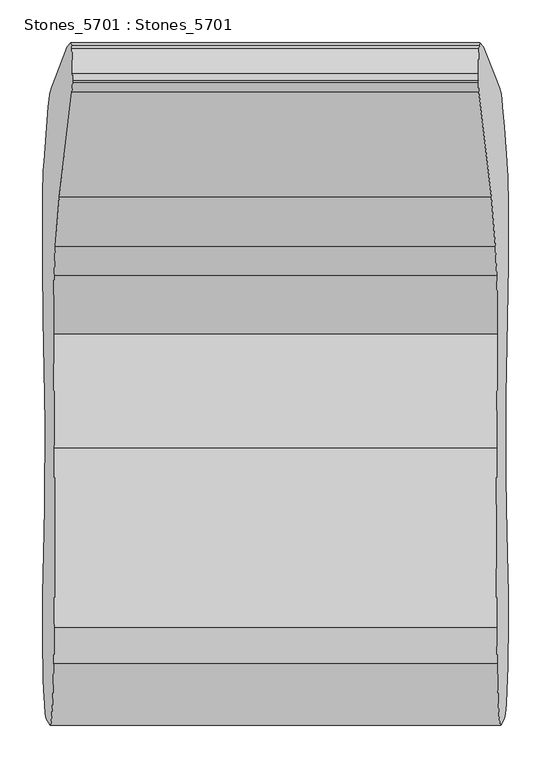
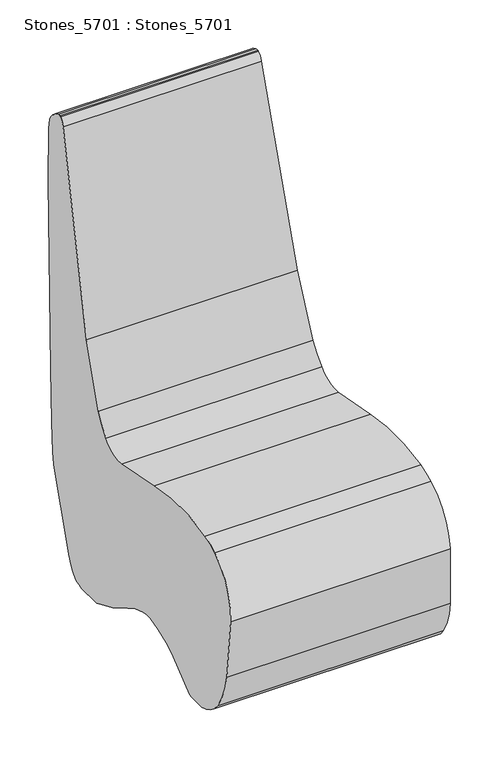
"""IFC4 building model written with IfcOpenShell, lengths in millimetres: furniture geometry, Stones_5701 : Stones_5701."""

from ifc_helpers import new_model, si_unit, frame, origin, origin_with_axes, place, context, project, spatial, polyline, ellipse_curve, outline, extrude, source, transform, mapped, element, save
from ifc_brep_helpers import plane_surface, cylinder_surface, revolved_surface, advanced_brep


def stones_5701_stones_5701_19645829(model_context):
    return source(origin(), model_context, "Body", "SolidModel", [
        advanced_brep(
        [(273.0352277, -183.7793268, 3.1584161), (273.0853994, -196.0719336, 1.5840123), (-273.0853994, -196.0719336, 1.5840123), (-273.0352277, -183.7793268, 3.1584161), (272.8570918, -170.6244643, 8.7483839), (-272.8570918, -170.6244643, 8.7483839), (272.6063417, -160.8509922, 16.6170124), (-272.6063417, -160.8509922, 16.6170124), (272.1441482, -149.9232694, 31.1208057), (-272.1441482, -149.9232694, 31.1208057), (271.4332654, -138.8206278, 53.4285612), (-271.4332654, -138.8206278, 53.4285612), (268.3365364, -98.8259809, 150.605015), (-268.3365364, -98.8259809, 150.605015), (266.4322429, -74.8779816, 210.3624172), (-266.4322429, -74.8779816, 210.3624172), (264.7378832, -60.4930009, 263.5320248), (-264.7378832, -60.4930009, 263.5320248), (262.4762753, -52.2771869, 334.5020831), (-262.4762753, -52.2771869, 334.5020831), (258.4308495, -41.5049884, 461.4489776), (-258.4308495, -41.5049884, 461.4489776), (244.0851218, -4.6987406, 911.6229926), (-244.0851218, -4.6987406, 911.6229926), (239.9456312, 0.0, 1041.5216751), (-239.9456312, 0.0, 1041.5216751), (239.1406906, -2.7827517, 1066.7809968), (-239.1406906, -2.7827517, 1066.7809968), (238.8683498, -6.4942874, 1075.327147), (-238.8683498, -6.4942874, 1075.327147), (238.1261835, -35.9789213, 1098.6165891), (-238.1261835, -35.9789213, 1098.6165891), (238.0820982, -43.9093181, 1100.0), (-238.0820982, -43.9093181, 1100.0), (238.1088769, -46.1207517, 1099.1596768), (-238.1088769, -46.1207517, 1099.1596768), (238.7072927, -57.7451465, 1080.3811773), (-238.7072927, -57.7451465, 1080.3811773), (253.4345701, -180.6099968, 618.2339933), (-253.4345701, -180.6099968, 618.2339933), (258.0485673, -238.3759965, 473.4451286), (-258.0485673, -238.3759965, 473.4451286), (259.5647437, -272.2299949, 425.8669743), (-259.5647437, -272.2299949, 425.8669743), (260.3174595, -340.8589931, 402.2464866), (-260.3174595, -340.8589931, 402.2464866), (259.4993201, -474.8229977, 427.9199922), (-259.4993201, -474.8229977, 427.9199922), (259.5331949, -685.0433339, 426.8569877), (-259.5331949, -685.0433339, 426.8569877), (273.0853994, -252.5100049, 1.5840123), (273.0589178, -259.5701271, 2.4150123), (-273.0589178, -259.5701271, 2.4150123), (-273.0853994, -252.5100049, 1.5840123), (260.0817591, -727.1202571, 409.6428499), (-260.0817591, -727.1202571, 409.6428499), (264.200544, -800.0, 280.393921), (-264.200544, -800.0, 280.393921), (268.8104165, -792.4598761, 135.7344895), (-268.8104165, -792.4598761, 135.7344895), (271.7244841, -758.8055184, 44.2900144), (-271.7244841, -758.8055184, 44.2900144), (273.0589178, -694.7849894, 2.4150123), (-273.0589178, -694.7849894, 2.4150123), (273.0589178, -651.8417312, 2.4150123), (-273.0589178, -651.8417312, 2.4150123), (272.9989847, -646.115845, 4.2957332), (-272.9989847, -646.115845, 4.2957332), (271.3523405, -573.5500021, 55.9680136), (-271.3523405, -573.5500021, 55.9680136), (270.130334, -475.4414965, 94.3150098), (-270.130334, -475.4414965, 94.3150098), (270.178066, -447.2963493, 92.8171637), (-270.178066, -447.2963493, 92.8171637), (271.0692104, -383.6283441, 64.8527358), (-271.0692104, -383.6283441, 64.8527358)],
        [
            (0, 1, ellipse_curve(frame((271.5310441, -196.0719336, 50.3602314), z_axis=(-0.9994926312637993, 0.0, -0.03185090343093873), x_axis=(0.03185090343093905, 0.0, -0.9994926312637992)), 48.8009792, 48.7762191)),
            (1, 2),
            (2, 3, ellipse_curve(frame((-271.5310441, -196.0719336, 50.3602314), z_axis=(0.9994926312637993, 0.0, -0.0318509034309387), x_axis=(0.03185090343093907, 0.0, 0.9994926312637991)), 48.8009792, 48.7762191)),
            (3, 0),
            (4, 0, ellipse_curve(frame((271.5310441, -196.0719336, 50.3602314), z_axis=(-0.9994926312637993, 0.0, -0.03185090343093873), x_axis=(0.03185090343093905, 0.0, -0.9994926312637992)), 48.8009792, 48.7762191)),
            (3, 5, ellipse_curve(frame((-271.5310441, -196.0719336, 50.3602314), z_axis=(0.9994926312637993, 0.0, -0.0318509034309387), x_axis=(0.03185090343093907, 0.0, 0.9994926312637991)), 48.8009792, 48.7762191)),
            (5, 4),
            (6, 4, ellipse_curve(frame((271.5310441, -196.0719336, 50.3602314), z_axis=(-0.9994926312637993, 0.0, -0.03185090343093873), x_axis=(0.03185090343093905, 0.0, -0.9994926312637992)), 48.8009792, 48.7762191)),
            (5, 7, ellipse_curve(frame((-271.5310441, -196.0719336, 50.3602314), z_axis=(0.9994926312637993, 0.0, -0.0318509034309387), x_axis=(0.03185090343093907, 0.0, 0.9994926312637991)), 48.8009792, 48.7762191)),
            (7, 6),
            (8, 6, ellipse_curve(frame((270.9099848, -216.4144817, 69.8492917), z_axis=(-0.9994926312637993, 0.0, -0.03185090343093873), x_axis=(0.03185090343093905, 0.0, -0.9994926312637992)), 76.9869453, 76.9478846)),
            (7, 9, ellipse_curve(frame((-270.9099848, -216.4144817, 69.8492917), z_axis=(0.9994926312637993, 0.0, -0.0318509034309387), x_axis=(0.03185090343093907, 0.0, 0.9994926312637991)), 76.9869453, 76.9478846)),
            (9, 8),
            (10, 8, ellipse_curve(frame((269.0964509, -314.119586, 126.7586281), z_axis=(-0.9994926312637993, 0.0, -0.03185090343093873), x_axis=(0.03185090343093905, 0.0, -0.9994926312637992)), 190.1149402, 190.0184818)),
            (9, 11, ellipse_curve(frame((-269.0964509, -314.119586, 126.7586281), z_axis=(0.9994926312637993, 0.0, -0.0318509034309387), x_axis=(0.03185090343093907, 0.0, 0.9994926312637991)), 190.1149402, 190.0184818)),
            (11, 10),
            (12, 10, ellipse_curve(frame((159.1748057, -8560.0243568, 3576.1387878), z_axis=(-0.9994926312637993, 0.0, -0.03185090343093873), x_axis=(0.03185090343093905, 0.0, -0.9994926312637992)), 9132.9501343, 9128.3163609)),
            (11, 13, ellipse_curve(frame((-159.1748057, -8560.0243568, 3576.1387878), z_axis=(0.9994926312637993, 0.0, -0.0318509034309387), x_axis=(0.03185090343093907, 0.0, 0.9994926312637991)), 9132.9501343, 9128.3163609)),
            (13, 12),
            (14, 12, ellipse_curve(frame((159.1748057, -8560.0243568, 3576.1387878), z_axis=(-0.9994926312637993, 0.0, -0.03185090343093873), x_axis=(0.03185090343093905, 0.0, -0.9994926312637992)), 9132.9501343, 9128.3163609)),
            (13, 15, ellipse_curve(frame((-159.1748057, -8560.0243568, 3576.1387878), z_axis=(0.9994926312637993, 0.0, -0.0318509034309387), x_axis=(0.03185090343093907, 0.0, 0.9994926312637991)), 9132.9501343, 9128.3163609)),
            (15, 14),
            (16, 14, ellipse_curve(frame((263.572651, -301.1005773, 300.0974239), z_axis=(-0.9994926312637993, 0.0, -0.03185090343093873), x_axis=(0.03185090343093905, 0.0, -0.9994926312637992)), 243.4937, 243.3701589)),
            (15, 17, ellipse_curve(frame((-263.572651, -301.1005773, 300.0974239), z_axis=(0.9994926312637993, 0.0, -0.0318509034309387), x_axis=(0.03185090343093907, 0.0, 0.9994926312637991)), 243.4937, 243.3701589)),
            (17, 16),
            (18, 16, ellipse_curve(frame((259.9279154, -1053.6982294, 414.4705205), z_axis=(-0.9994926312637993, 0.0, -0.03185090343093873), x_axis=(0.03185090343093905, 0.0, -0.9994926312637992)), 1005.1188726, 1004.6089068)),
            (17, 19, ellipse_curve(frame((-259.9279154, -1053.6982294, 414.4705205), z_axis=(0.9994926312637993, 0.0, -0.0318509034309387), x_axis=(0.03185090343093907, 0.0, 0.9994926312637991)), 1005.1188726, 1004.6089068)),
            (19, 18),
            (20, 18, ellipse_curve(frame((295.007222, 12731.3073034, -686.3305468), z_axis=(0.9994926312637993, 0.0, 0.03185090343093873), x_axis=(-0.03185090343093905, 0.0, 0.9994926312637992)), 12830.7889337, 12824.2789925)),
            (19, 21, ellipse_curve(frame((-295.007222, 12731.3073034, -686.3305468), z_axis=(-0.9994926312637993, 0.0, 0.0318509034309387), x_axis=(-0.03185090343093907, 0.0, -0.9994926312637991)), 12830.7889337, 12824.2789925)),
            (21, 20),
            (22, 20, ellipse_curve(frame((178.3342525, -28011.9878243, 2974.9085629), z_axis=(-0.9994926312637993, 0.0, -0.03185090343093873), x_axis=(0.03185090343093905, 0.0, -0.9994926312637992)), 28097.4427121, 28083.1869481)),
            (21, 23, ellipse_curve(frame((-178.3342525, -28011.9878243, 2974.9085629), z_axis=(0.9994926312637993, 0.0, -0.0318509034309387), x_axis=(0.03185090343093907, 0.0, 0.9994926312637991)), 28097.4427121, 28083.1869481)),
            (23, 22),
            (24, 22, ellipse_curve(frame((240.013441, -1739.074912, 1039.3937782), z_axis=(-0.9994926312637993, 0.0, -0.03185090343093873), x_axis=(0.03185090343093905, 0.0, -0.9994926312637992)), 1739.9590146, 1739.0762138)),
            (23, 25, ellipse_curve(frame((-240.013441, -1739.074912, 1039.3937782), z_axis=(0.9994926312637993, 0.0, -0.0318509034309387), x_axis=(0.03185090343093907, 0.0, 0.9994926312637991)), 1739.9590146, 1739.0762138)),
            (25, 24),
            (26, 24, ellipse_curve(frame((239.9502063, -117.3352914, 1041.3781061), z_axis=(-0.9994926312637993, 0.0, -0.03185090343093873), x_axis=(0.03185090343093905, 0.0, -0.9994926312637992)), 117.3949418, 117.3353793)),
            (25, 27, ellipse_curve(frame((-239.9502063, -117.3352914, 1041.3781061), z_axis=(0.9994926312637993, 0.0, -0.0318509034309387), x_axis=(0.03185090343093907, 0.0, 0.9994926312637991)), 117.3949418, 117.3353793)),
            (27, 26),
            (28, 26, ellipse_curve(frame((239.3095669, -26.6800148, 1061.4815982), z_axis=(-0.9994926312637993, 0.0, -0.03185090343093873), x_axis=(0.03185090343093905, 0.0, -0.9994926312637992)), 24.490228, 24.4778024)),
            (27, 29, ellipse_curve(frame((-239.3095669, -26.6800148, 1061.4815982), z_axis=(0.9994926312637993, 0.0, -0.0318509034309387), x_axis=(0.03185090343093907, 0.0, 0.9994926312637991)), 24.490228, 24.4778024)),
            (29, 28),
            (30, 28, ellipse_curve(frame((240.0103618, -58.7414549, 1039.4904049), z_axis=(-0.9994926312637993, 0.0, -0.03185090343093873), x_axis=(0.03185090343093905, 0.0, -0.9994926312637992)), 63.3886022, 63.3564408)),
            (29, 31, ellipse_curve(frame((-240.0103618, -58.7414549, 1039.4904049), z_axis=(0.9994926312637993, 0.0, -0.0318509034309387), x_axis=(0.03185090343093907, 0.0, 0.9994926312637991)), 63.3886022, 63.3564408)),
            (31, 30),
            (32, 30, ellipse_curve(frame((238.7446198, -43.4501769, 1079.2098374), z_axis=(-0.9994926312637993, 0.0, -0.03185090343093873), x_axis=(0.03185090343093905, 0.0, -0.9994926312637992)), 20.8057882, 20.795232)),
            (31, 33, ellipse_curve(frame((-238.7446198, -43.4501769, 1079.2098374), z_axis=(0.9994926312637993, 0.0, -0.0318509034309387), x_axis=(0.03185090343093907, 0.0, 0.9994926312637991)), 20.8057882, 20.795232)),
            (33, 32),
            (34, 32, ellipse_curve(frame((238.1947641, -43.8312383, 1096.4645043), z_axis=(-0.9994926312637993, 0.0, -0.03185090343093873), x_axis=(0.03185090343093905, 0.0, -0.9994926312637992)), 3.5381529, 3.5363578)),
            (33, 35, ellipse_curve(frame((-238.1947641, -43.8312383, 1096.4645043), z_axis=(0.9994926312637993, 0.0, -0.0318509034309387), x_axis=(0.03185090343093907, 0.0, 0.9994926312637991)), 3.5381529, 3.5363578)),
            (35, 34),
            (36, 34, ellipse_curve(frame((238.9817379, -22.8527253, 1071.7689886), z_axis=(-0.9994926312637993, 0.0, -0.03185090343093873), x_axis=(0.03185090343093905, 0.0, -0.9994926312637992)), 35.9577883, 35.9395444)),
            (35, 37, ellipse_curve(frame((-238.9817379, -22.8527253, 1071.7689886), z_axis=(0.9994926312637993, 0.0, -0.0318509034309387), x_axis=(0.03185090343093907, 0.0, 0.9994926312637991)), 35.9577883, 35.9395444)),
            (37, 36),
            (38, 36, ellipse_curve(frame((136.4784441, -13054.9176329, 4288.3586536), z_axis=(0.9994926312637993, 0.0, 0.03185090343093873), x_axis=(-0.03185090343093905, 0.0, 0.9994926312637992)), 13394.0139411, 13387.2182372)),
            (37, 39, ellipse_curve(frame((-136.4784441, -13054.9176329, 4288.3586536), z_axis=(-0.9994926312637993, 0.0, 0.0318509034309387), x_axis=(-0.03185090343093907, 0.0, -0.9994926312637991)), 13394.0139411, 13387.2182372)),
            (39, 38),
            (40, 38, ellipse_curve(frame((246.7410602, -917.4188266, 828.2787066), z_axis=(0.9994926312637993, 0.0, 0.03185090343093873), x_axis=(-0.03185090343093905, 0.0, 0.9994926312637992)), 766.5521142, 766.1631896)),
            (39, 41, ellipse_curve(frame((-246.7410602, -917.4188266, 828.2787066), z_axis=(-0.9994926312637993, 0.0, 0.0318509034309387), x_axis=(-0.03185090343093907, 0.0, -0.9994926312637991)), 766.5521142, 766.1631896)),
            (41, 40),
            (42, 40, ellipse_curve(frame((254.8913352, -427.9753296, 572.5201895), z_axis=(0.9994926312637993, 0.0, 0.03185090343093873), x_axis=(-0.03185090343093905, 0.0, 0.9994926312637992)), 214.033288, 213.9246942)),
            (41, 43, ellipse_curve(frame((-254.8913352, -427.9753296, 572.5201895), z_axis=(-0.9994926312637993, 0.0, 0.0318509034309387), x_axis=(-0.03185090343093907, 0.0, -0.9994926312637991)), 214.033288, 213.9246942)),
            (43, 42),
            (44, 42, ellipse_curve(frame((257.8609258, -329.0111836, 479.3333841), z_axis=(0.9994926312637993, 0.0, 0.03185090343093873), x_axis=(-0.03185090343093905, 0.0, 0.9994926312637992)), 78.031644, 77.9920532)),
            (43, 45, ellipse_curve(frame((-257.8609258, -329.0111836, 479.3333841), z_axis=(-0.9994926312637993, 0.0, 0.0318509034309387), x_axis=(-0.03185090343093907, 0.0, -0.9994926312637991)), 78.031644, 77.9920532)),
            (45, 44),
            (46, 44, ellipse_curve(frame((202.0070132, -59.6289559, 2232.0489469), z_axis=(0.9994926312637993, 0.0, 0.03185090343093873), x_axis=(-0.03185090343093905, 0.0, 0.9994926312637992)), 1852.2277945, 1851.288032)),
            (45, 47, ellipse_curve(frame((-202.0070132, -59.6289559, 2232.0489469), z_axis=(-0.9994926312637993, 0.0, 0.0318509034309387), x_axis=(-0.03185090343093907, 0.0, -0.9994926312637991)), 1852.2277945, 1851.288032)),
            (47, 46),
            (48, 46, ellipse_curve(frame((273.7414619, -577.6759311, -19.0034619), z_axis=(-0.9994926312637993, 0.0, -0.03185090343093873), x_axis=(0.03185090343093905, 0.0, -0.9994926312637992)), 458.838622, 458.6058217)),
            (47, 49, ellipse_curve(frame((-273.7414619, -577.6759311, -19.0034619), z_axis=(0.9994926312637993, 0.0, -0.0318509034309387), x_axis=(0.03185090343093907, 0.0, 0.9994926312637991)), 458.838622, 458.6058217)),
            (49, 48),
            (50, 51, ellipse_curve(frame((272.6064181, -254.3198196, 16.6146141), z_axis=(-0.9994926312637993, 0.0, -0.03185090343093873), x_axis=(0.03185090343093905, 0.0, -0.9994926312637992)), 15.1468534, 15.1391683)),
            (51, 52),
            (52, 53, ellipse_curve(frame((-272.6064181, -254.3198196, 16.6146141), z_axis=(0.9994926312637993, 0.0, -0.0318509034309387), x_axis=(0.03185090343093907, 0.0, 0.9994926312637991)), 15.1468534, 15.1391683)),
            (53, 50),
            (1, 50),
            (53, 2),
            (54, 48, ellipse_curve(frame((264.1834511, -649.9028114, 280.9303027), z_axis=(-0.9994926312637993, 0.0, -0.03185090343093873), x_axis=(0.03185090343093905, 0.0, -0.9994926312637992)), 150.1743408, 150.098147)),
            (49, 55, ellipse_curve(frame((-264.1834511, -649.9028114, 280.9303027), z_axis=(0.9994926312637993, 0.0, -0.0318509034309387), x_axis=(0.03185090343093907, 0.0, 0.9994926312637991)), 150.1743408, 150.098147)),
            (55, 54),
            (56, 54, ellipse_curve(frame((264.1834511, -649.9028114, 280.9303027), z_axis=(-0.9994926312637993, 0.0, -0.03185090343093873), x_axis=(0.03185090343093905, 0.0, -0.9994926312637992)), 150.1743408, 150.098147)),
            (55, 57, ellipse_curve(frame((-264.1834511, -649.9028114, 280.9303027), z_axis=(0.9994926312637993, 0.0, -0.0318509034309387), x_axis=(0.03185090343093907, 0.0, 0.9994926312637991)), 150.1743408, 150.098147)),
            (57, 56),
            (58, 56, ellipse_curve(frame((264.0304253, 693.854722, 285.7323042), z_axis=(-0.9994926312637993, 0.0, -0.03185090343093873), x_axis=(0.03185090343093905, 0.0, -0.9994926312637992)), 1494.6225853, 1493.8642605)),
            (57, 59, ellipse_curve(frame((-264.0304253, 693.854722, 285.7323042), z_axis=(0.9994926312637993, 0.0, -0.0318509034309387), x_axis=(0.03185090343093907, 0.0, 0.9994926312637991)), 1494.6225853, 1493.8642605)),
            (59, 58),
            (60, 58, ellipse_curve(frame((268.1853613, -598.1020679, 155.3489416), z_axis=(-0.9994926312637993, 0.0, -0.03185090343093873), x_axis=(0.03185090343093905, 0.0, -0.9994926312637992)), 195.4442014, 195.3450391)),
            (59, 61, ellipse_curve(frame((-268.1853613, -598.1020679, 155.3489416), z_axis=(0.9994926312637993, 0.0, -0.0318509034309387), x_axis=(0.03185090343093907, 0.0, 0.9994926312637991)), 195.4442014, 195.3450391)),
            (61, 60),
            (62, 60, ellipse_curve(frame((269.8876219, -675.3978165, 101.9314021), z_axis=(-0.9994926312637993, 0.0, -0.03185090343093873), x_axis=(0.03185090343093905, 0.0, -0.9994926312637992)), 101.438716, 101.3872492)),
            (61, 63, ellipse_curve(frame((-269.8876219, -675.3978165, 101.9314021), z_axis=(0.9994926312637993, 0.0, -0.0318509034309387), x_axis=(0.03185090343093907, 0.0, 0.9994926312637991)), 101.438716, 101.3872492)),
            (63, 62),
            (64, 62),
            (63, 65),
            (65, 64),
            (66, 64, ellipse_curve(frame((272.751189, -651.8417312, 12.0716509), z_axis=(-0.9994926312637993, 0.0, -0.03185090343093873), x_axis=(0.03185090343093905, 0.0, -0.9994926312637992)), 9.6615406, 9.6566386)),
            (65, 67, ellipse_curve(frame((-272.751189, -651.8417312, 12.0716509), z_axis=(0.9994926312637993, 0.0, -0.0318509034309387), x_axis=(0.03185090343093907, 0.0, 0.9994926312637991)), 9.6615406, 9.6566386)),
            (67, 66),
            (68, 66, ellipse_curve(frame((344.7448975, 1011.7373329, -2247.1164224), z_axis=(0.9994926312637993, 0.0, 0.03185090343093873), x_axis=(-0.03185090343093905, 0.0, 0.9994926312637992)), 2797.3688418, 2795.9495443)),
            (67, 69, ellipse_curve(frame((-344.7448975, 1011.7373329, -2247.1164224), z_axis=(-0.9994926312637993, 0.0, 0.0318509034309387), x_axis=(-0.03185090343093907, 0.0, -0.9994926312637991)), 2797.3688418, 2795.9495443)),
            (69, 68),
            (70, 68, ellipse_curve(frame((277.4102258, -442.6990095, -134.1305746), z_axis=(0.9994926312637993, 0.0, 0.03185090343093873), x_axis=(-0.03185090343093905, 0.0, 0.9994926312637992)), 230.8972521, 230.780102)),
            (69, 71, ellipse_curve(frame((-277.4102258, -442.6990095, -134.1305746), z_axis=(-0.9994926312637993, 0.0, 0.0318509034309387), x_axis=(-0.03185090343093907, 0.0, -0.9994926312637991)), 230.8972521, 230.780102)),
            (71, 70),
            (72, 70, ellipse_curve(frame((272.41846, -465.150281, 22.5128054), z_axis=(0.9994926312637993, 0.0, 0.03185090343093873), x_axis=(-0.03185090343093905, 0.0, 0.9994926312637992)), 72.5727825, 72.5359613)),
            (71, 73, ellipse_curve(frame((-272.41846, -465.150281, 22.5128054), z_axis=(-0.9994926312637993, 0.0, 0.0318509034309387), x_axis=(-0.03185090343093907, 0.0, -0.9994926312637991)), 72.5727825, 72.5359613)),
            (73, 72),
            (74, 72, ellipse_curve(frame((276.7099261, -499.349418, -112.1549212), z_axis=(0.9994926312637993, 0.0, 0.03185090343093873), x_axis=(-0.03185090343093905, 0.0, 0.9994926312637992)), 211.5856666, 211.4783146)),
            (73, 75, ellipse_curve(frame((-276.7099261, -499.349418, -112.1549212), z_axis=(-0.9994926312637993, 0.0, 0.0318509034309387), x_axis=(-0.03185090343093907, 0.0, -0.9994926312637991)), 211.5856666, 211.4783146)),
            (75, 74),
            (51, 74, ellipse_curve(frame((254.6047974, -45.8556843, 581.5118464), z_axis=(-0.9994926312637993, 0.0, -0.03185090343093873), x_axis=(0.03185090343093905, 0.0, -0.9994926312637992)), 617.5871948, 617.2738503)),
            (75, 52, ellipse_curve(frame((-254.6047974, -45.8556843, 581.5118464), z_axis=(0.9994926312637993, 0.0, -0.0318509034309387), x_axis=(0.03185090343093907, 0.0, 0.9994926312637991)), 617.5871948, 617.2738503)),
        ],
        [
            cylinder_surface(frame((-275.0, -196.0719336, 50.3602314), z_axis=(1.0, 0.0, 0.0), x_axis=(0.0, 1.0, 0.0)), 48.7762191),
            cylinder_surface(frame((-275.0, -216.4144817, 69.8492917), z_axis=(1.0, 0.0, 0.0), x_axis=(0.0, 1.0, 0.0)), 76.9478846),
            cylinder_surface(frame((-275.0, -314.119586, 126.7586281), z_axis=(1.0, 0.0, 0.0), x_axis=(0.0, 1.0, 0.0)), 190.0184818),
            cylinder_surface(frame((-275.0, -8560.0243568, 3576.1387878), z_axis=(1.0, 0.0, 0.0), x_axis=(0.0, 1.0, 0.0)), 9128.3163609),
            cylinder_surface(frame((-275.0, -301.1005773, 300.0974239), z_axis=(1.0, 0.0, 0.0), x_axis=(0.0, 1.0, 0.0)), 243.3701589),
            cylinder_surface(frame((-275.0, -1053.6982294, 414.4705205), z_axis=(1.0, 0.0, 0.0), x_axis=(0.0, 1.0, 0.0)), 1004.6089068),
            revolved_surface(polyline([(-703.6794412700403, 25555.5862959, -686.3305468), (703.6794412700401, 25555.5862959, -686.3305468)]), (-275.0, 12731.3073034, -686.3305468), (-1.0, 0.0, 0.0)),
            cylinder_surface(frame((-275.0, -28011.9878243, 2974.9085629), z_axis=(1.0, 0.0, 0.0), x_axis=(0.0, 1.0, 0.0)), 28083.1869481),
            cylinder_surface(frame((-275.0, -1739.074912, 1039.3937782), z_axis=(1.0, 0.0, 0.0), x_axis=(0.0, 1.0, 0.0)), 1739.0762138),
            cylinder_surface(frame((-275.0, -117.3352914, 1041.3781061), z_axis=(1.0, 0.0, 0.0), x_axis=(0.0, 1.0, 0.0)), 117.3353793),
            cylinder_surface(frame((-275.0, -26.6800148, 1061.4815982), z_axis=(1.0, 0.0, 0.0), x_axis=(0.0, 1.0, 0.0)), 24.4778024),
            cylinder_surface(frame((-275.0, -58.7414549, 1039.4904049), z_axis=(1.0, 0.0, 0.0), x_axis=(0.0, 1.0, 0.0)), 63.3564408),
            cylinder_surface(frame((-275.0, -43.4501769, 1079.2098374), z_axis=(1.0, 0.0, 0.0), x_axis=(0.0, 1.0, 0.0)), 20.795232),
            cylinder_surface(frame((-275.0, -43.8312383, 1096.4645043), z_axis=(1.0, 0.0, 0.0), x_axis=(0.0, 1.0, 0.0)), 3.5363578),
            cylinder_surface(frame((-275.0, -22.8527253, 1071.7689886), z_axis=(1.0, 0.0, 0.0), x_axis=(0.0, 1.0, 0.0)), 35.9395444),
            revolved_surface(polyline([(-563.0898886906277, 332.3006043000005, 4288.3586536), (563.0898886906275, 332.3006043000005, 4288.3586536)]), (-275.0, -13054.9176329, 4288.3586536), (-1.0, 0.0, 0.0)),
            revolved_surface(polyline([(-271.15643756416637, -151.25563699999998, 828.2787066), (271.15643756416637, -151.25563699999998, 828.2787066)]), (-275.0, -917.4188266, 828.2787066), (-1.0, 0.0, 0.0)),
            revolved_surface(polyline([(-261.7084887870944, -214.0506354, 572.5201895), (261.7084887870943, -214.0506354, 572.5201895)]), (-275.0, -427.9753296, 572.5201895), (-1.0, 0.0, 0.0)),
            revolved_surface(polyline([(-260.3463041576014, -251.0191304, 479.3333841), (260.3463041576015, -251.0191304, 479.3333841)]), (-275.0, -329.0111836, 479.3333841), (-1.0, 0.0, 0.0)),
            revolved_surface(polyline([(-261.00214181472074, 1791.6590761, 2232.0489469), (261.00214181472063, 1791.6590761, 2232.0489469)]), (-275.0, -59.6289559, 2232.0489469), (-1.0, 0.0, 0.0)),
            cylinder_surface(frame((-275.0, -577.6759311, -19.0034619), z_axis=(1.0, 0.0, 0.0), x_axis=(0.0, 1.0, 0.0)), 458.6058217),
            cylinder_surface(frame((-275.0, -254.3198196, 16.6146141), z_axis=(1.0, 0.0, 0.0), x_axis=(0.0, 1.0, 0.0)), 15.1391683),
            plane_surface(frame((275.0, -252.5100049, 1.5840123), z_axis=(0.0, 0.0, -1.0), x_axis=(-1.0, 0.0, 0.0))),
            cylinder_surface(frame((-275.0, -649.9028114, 280.9303027), z_axis=(1.0, 0.0, 0.0), x_axis=(0.0, 1.0, 0.0)), 150.098147),
            cylinder_surface(frame((-275.0, 693.854722, 285.7323042), z_axis=(1.0, 0.0, 0.0), x_axis=(0.0, 1.0, 0.0)), 1493.8642605),
            cylinder_surface(frame((-275.0, -598.1020679, 155.3489416), z_axis=(1.0, 0.0, 0.0), x_axis=(0.0, 1.0, 0.0)), 195.3450391),
            cylinder_surface(frame((-275.0, -675.3978165, 101.9314021), z_axis=(1.0, 0.0, 0.0), x_axis=(0.0, 1.0, 0.0)), 101.3872492),
            plane_surface(frame((275.0, -694.7849894, 2.4150123), z_axis=(0.0, 0.0, -1.0), x_axis=(-1.0, 0.0, 0.0))),
            cylinder_surface(frame((-275.0, -651.8417312, 12.0716509), z_axis=(1.0, 0.0, 0.0), x_axis=(0.0, 1.0, 0.0)), 9.6566386),
            revolved_surface(polyline([(-433.8436223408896, 3807.6868772, -2247.1164224), (433.8436223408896, 3807.6868772, -2247.1164224)]), (-275.0, 1011.7373329, -2247.1164224), (-1.0, 0.0, 0.0)),
            revolved_surface(polyline([(-284.7645118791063, -211.9189075, -134.1305746), (284.7645118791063, -211.9189075, -134.1305746)]), (-275.0, -442.6990095, -134.1305746), (-1.0, 0.0, 0.0)),
            revolved_surface(polyline([(-274.72996868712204, -392.6143197, 22.5128054), (274.729968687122, -392.6143197, 22.5128054)]), (-275.0, -465.150281, 22.5128054), (-1.0, 0.0, 0.0)),
            revolved_surface(polyline([(-283.4491207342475, -287.87110340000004, -112.1549212), (283.4491207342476, -287.87110340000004, -112.1549212)]), (-275.0, -499.349418, -112.1549212), (-1.0, 0.0, 0.0)),
            cylinder_surface(frame((-275.0, -45.8556843, 581.5118464), z_axis=(1.0, 0.0, 0.0), x_axis=(0.0, 1.0, 0.0)), 617.2738503),
            plane_surface(frame((236.1700739, -1000.0, 1160.0), z_axis=(0.9994926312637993, 0.0, 0.03185090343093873), x_axis=(0.0, 1.0, 0.0))),
            plane_surface(frame((-275.0479015, -1000.0, -60.0), z_axis=(-0.9994926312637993, 0.0, 0.0318509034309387), x_axis=(0.0, 1.0, 0.0))),
        ],
        [
            (0, [[1, 2, 3, 4]]),
            (0, [[5, -4, 6, 7]]),
            (0, [[8, -7, 9, 10]]),
            (1, [[11, -10, 12, 13]]),
            (2, [[14, -13, 15, 16]]),
            (3, [[17, -16, 18, 19]]),
            (3, [[20, -19, 21, 22]]),
            (4, [[23, -22, 24, 25]]),
            (5, [[26, -25, 27, 28]]),
            (6, [[29, -28, 30, 31]]),
            (7, [[32, -31, 33, 34]]),
            (8, [[35, -34, 36, 37]]),
            (9, [[38, -37, 39, 40]]),
            (10, [[41, -40, 42, 43]]),
            (11, [[44, -43, 45, 46]]),
            (12, [[47, -46, 48, 49]]),
            (13, [[50, -49, 51, 52]]),
            (14, [[53, -52, 54, 55]]),
            (15, [[56, -55, 57, 58]]),
            (16, [[59, -58, 60, 61]]),
            (17, [[62, -61, 63, 64]]),
            (18, [[65, -64, 66, 67]]),
            (19, [[68, -67, 69, 70]]),
            (20, [[71, -70, 72, 73]]),
            (21, [[74, 75, 76, 77]]),
            (22, [[78, -77, 79, -2]]),
            (23, [[80, -73, 81, 82]]),
            (23, [[83, -82, 84, 85]]),
            (24, [[86, -85, 87, 88]]),
            (25, [[89, -88, 90, 91]]),
            (26, [[92, -91, 93, 94]]),
            (27, [[95, -94, 96, 97]]),
            (28, [[98, -97, 99, 100]]),
            (29, [[101, -100, 102, 103]]),
            (30, [[104, -103, 105, 106]]),
            (31, [[107, -106, 108, 109]]),
            (32, [[110, -109, 111, 112]]),
            (33, [[113, -112, 114, -75]]),
            (34, [[-1, -5, -8, -11, -14, -17, -20, -23, -26, -29, -32, -35, -38, -41, -44, -47, -50, -53, -56, -59, -62, -65, -68, -71, -80, -83, -86, -89, -92, -95, -98, -101, -104, -107, -110, -113, -74, -78]]),
            (35, [[-3, -79, -76, -114, -111, -108, -105, -102, -99, -96, -93, -90, -87, -84, -81, -72, -69, -66, -63, -60, -57, -54, -51, -48, -45, -42, -39, -36, -33, -30, -27, -24, -21, -18, -15, -12, -9, -6]]),
        ],
    ),
        extrude(outline(polyline([(-237.9984043, -193.6204437), (-180.9984043, -193.6204437), (-180.9984043, -228.6204437), (-237.9984043, -228.6204437), (-237.9984043, -193.6204437)])), origin_with_axes(), (0.0, 0.0, 1.0), 10.0),
        extrude(outline(polyline([(237.9984043, -193.6204437), (237.9984043, -228.6204437), (180.9984043, -228.6204437), (180.9984043, -193.6204437), (237.9984043, -193.6204437)])), origin_with_axes(), (0.0, 0.0, 1.0), 10.0),
        extrude(outline(polyline([(-237.9984043, -659.8914199), (-180.9984043, -659.8914199), (-180.9984043, -694.8914199), (-237.9984043, -694.8914199), (-237.9984043, -659.8914199)])), origin_with_axes(), (0.0, 0.0, 1.0), 10.0),
        extrude(outline(polyline([(237.9984043, -659.8914199), (237.9984043, -694.8914199), (180.9984043, -694.8914199), (180.9984043, -659.8914199), (237.9984043, -659.8914199)])), origin_with_axes(), (0.0, 0.0, 1.0), 10.0),
    ])


if __name__ == "__main__":
    model = new_model("IFC4")
    model_context = context("Model", 3, world=origin())
    ifc_project = project(units=[si_unit("LENGTHUNIT", "METRE", prefix="MILLI")], contexts=[model_context])
    site = spatial("IfcSite", under=ifc_project)
    building = spatial("IfcBuilding", under=site)
    placement = place(None, origin())
    stones_5701_stones_5701_shape = stones_5701_stones_5701_19645829(model_context)
    element("IfcFurniture", 1, ObjectType="Stones_5701 : Stones_5701", at=placement, inside=building, context=model_context, shape_type="MappedRepresentation", body=[
        mapped(stones_5701_stones_5701_shape, transform((0.0, 0.0, 0.0), x_axis=(1.0, 0.0, 0.0), y_axis=(0.0, 1.0, 0.0), z_axis=(0.0, 0.0, 1.0))),
    ])
    save(model, "model.ifc")
